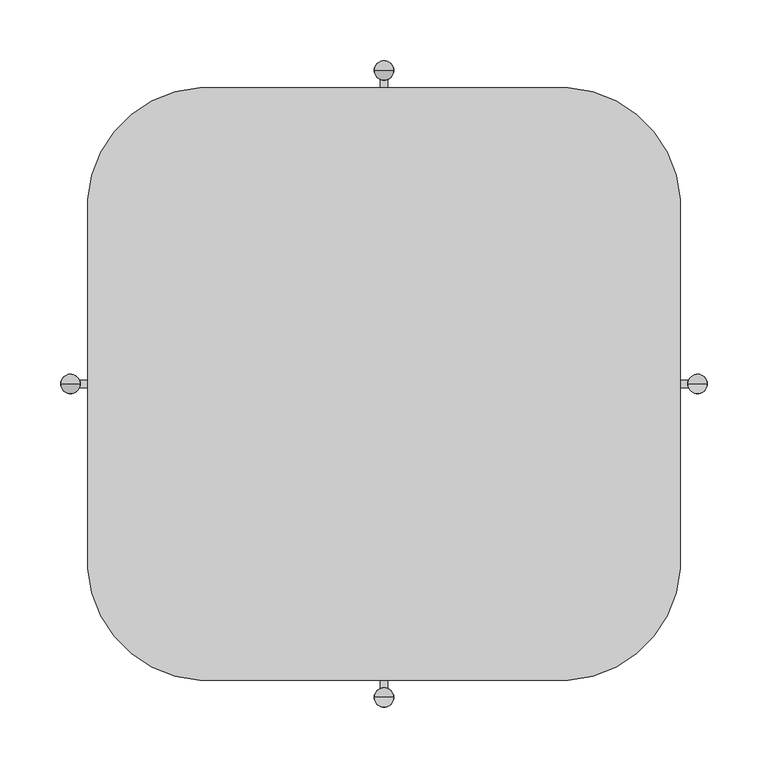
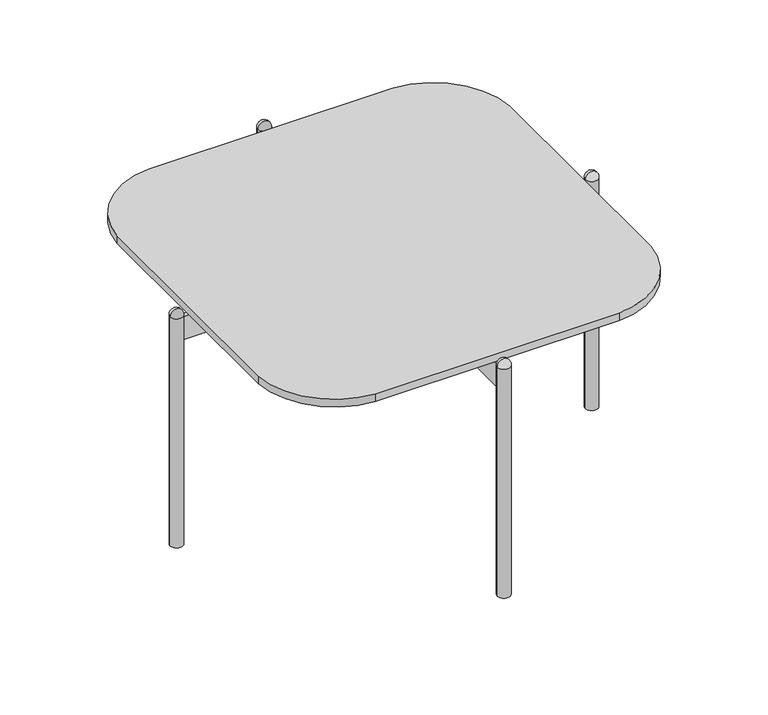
"""IFC4 building model written with IfcOpenShell, lengths in millimetres: furniture geometry, RECTANGULAR TABLE_H=31 : EI131B055050A_G."""

from ifc_helpers import new_model, si_unit, point, frame, frame_2d, origin, origin_with_axes, origin_2d, place, context, project, spatial, polyline, circle_curve, ellipse_curve, trimmed, segment, composite_curve, outline, extrude, source, transform, mapped, element, save
from ifc_brep_helpers import plane_surface, revolved_surface, advanced_brep


def furniture_b69855c9(model_context):
    return source(origin(), model_context, "Body", "SolidModel", [
        extrude(outline(composite_curve([segment(trimmed(circle_curve(frame_2d((-145.119559, 145.119559)), 99.0), [point((-243.8958721, 151.7708721))], [point((-151.7708721, 243.8958722))], False, "CARTESIAN"), True, "CONTINUOUS"), segment(trimmed(circle_curve(frame_2d((0.0, -2010.0000004)), 2259.0000004), [point((-151.7708721, 243.8958722))], [point((151.7708721, 243.8958722))], False, "CARTESIAN"), True, "CONTINUOUS"), segment(trimmed(circle_curve(frame_2d((145.119559, 145.119559)), 99.0000001), [point((151.7708721, 243.8958722))], [point((243.8958722, 151.7708721))], False, "CARTESIAN"), True, "CONTINUOUS"), segment(trimmed(circle_curve(frame_2d((-2010.0000004, 0.0)), 2259.0000004), [point((243.8958722, 151.7708721))], [point((243.8958722, -151.7708721))], False, "CARTESIAN"), True, "CONTINUOUS"), segment(trimmed(circle_curve(frame_2d((145.119559, -145.1195589)), 99.0), [point((243.8958722, -151.7708721))], [point((151.7708721, -243.8958721))], False, "CARTESIAN"), True, "CONTINUOUS"), segment(trimmed(circle_curve(frame_2d((0.0, 2010.0000004)), 2259.0000004), [point((151.7708721, -243.8958721))], [point((-151.7708721, -243.8958721))], False, "CARTESIAN"), True, "CONTINUOUS"), segment(trimmed(circle_curve(frame_2d((-145.1195589, -145.1195589)), 99.0), [point((-151.7708721, -243.8958721))], [point((-243.8958721, -151.7708721))], False, "CARTESIAN"), True, "CONTINUOUS"), segment(trimmed(circle_curve(frame_2d((2010.0000004, 0.0)), 2259.0000004), [point((-243.8958721, -151.7708721))], [point((-243.8958721, 151.7708721))], False, "CARTESIAN"), True, "CONTINUOUS")], self_intersect=False)), frame((0.0, 0.0, 297.6939464), z_axis=(0.0, 0.0, 1.0), x_axis=(1.0, 0.0, 0.0)), (0.0, 0.0, 1.0), 10.0),
        advanced_brep(
        [(-8.0, -257.95, 301.1666667), (8.0, -257.95, 301.1666667), (0.0, -257.95, 309.1666667), (0.0, -257.95, 301.1666667)],
        [
            (0, 1, circle_curve(frame((0.0, -257.95, 301.1666667), z_axis=(0.0, 0.0, 1.0), x_axis=(1.0, 0.0, 0.0)), 8.0)),
            (1, 2, circle_curve(frame((0.0, -257.95, 301.1666667), z_axis=(0.0, -1.0, 0.0), x_axis=(1.0, 0.0, 0.0)), 8.0)),
            (2, 0, circle_curve(frame((0.0, -257.95, 301.1666667), z_axis=(0.0, -1.0, 0.0), x_axis=(-1.0, 0.0, 0.0)), 8.0)),
            (1, 0, circle_curve(frame((0.0, -257.95, 301.1666667), z_axis=(0.0, 0.0, 1.0), x_axis=(1.0, 0.0, 0.0)), 8.0)),
            (3, 1),
            (0, 3),
        ],
        [
            revolved_surface(trimmed(ellipse_curve(frame((0.0, -257.95, 301.1666667), z_axis=(0.0, 1.0, 0.0), x_axis=(1.0, 0.0, 0.0)), 8.0, 8.0), [point((0.0, -257.95, 309.1666667))], [point((8.0, -257.95, 301.1666667))], True, "CARTESIAN"), (0.0, -257.95, 2498.4), (0.0, 0.0, -1.0)),
            plane_surface(frame((0.0, -257.95, 301.1666667), z_axis=(0.0, 0.0, -1.0), x_axis=(1.0, 0.0, 0.0))),
        ],
        [
            (0, [[1, 2, 3]]),
            (0, [[4, -3, -2]]),
            (1, [[5, -1, 6]]),
            (1, [[-6, -4, -5]]),
        ],
    ),
        advanced_brep(
        [(265.95, 0.0, 301.1666667), (249.95, 0.0, 301.1666667), (257.95, 0.0, 309.1666667), (257.95, 0.0, 301.1666667)],
        [
            (0, 1, circle_curve(frame((257.95, 0.0, 301.1666667), z_axis=(0.0, 0.0, 1.0), x_axis=(-1.0, 0.0, 0.0)), 8.0)),
            (1, 2, circle_curve(frame((257.95, 0.0, 301.1666667), z_axis=(0.0, 1.0, 0.0), x_axis=(-1.0, 0.0, 0.0)), 8.0)),
            (2, 0, circle_curve(frame((257.95, 0.0, 301.1666667), z_axis=(0.0, 1.0, 0.0), x_axis=(1.0, 0.0, 0.0)), 8.0)),
            (1, 0, circle_curve(frame((257.95, 0.0, 301.1666667), z_axis=(0.0, 0.0, 1.0), x_axis=(-1.0, 0.0, 0.0)), 8.0)),
            (3, 1),
            (0, 3),
        ],
        [
            revolved_surface(trimmed(ellipse_curve(frame((257.95, 0.0, 301.1666667), z_axis=(0.0, -1.0, 0.0), x_axis=(-1.0, 0.0, 0.0)), 8.0, 8.0), [point((257.95, 0.0, 309.1666667))], [point((249.95, 0.0, 301.1666667))], True, "CARTESIAN"), (257.95, 0.0, 2498.4), (0.0, 0.0, -1.0)),
            plane_surface(frame((257.95, 0.0, 301.1666667), z_axis=(0.0, 0.0, -1.0), x_axis=(-1.0, 0.0, 0.0))),
        ],
        [
            (0, [[1, 2, 3]]),
            (0, [[4, -3, -2]]),
            (1, [[5, -1, 6]]),
            (1, [[-6, -4, -5]]),
        ],
    ),
        advanced_brep(
        [(0.0, 257.95, 309.1666667), (8.0, 257.95, 301.1666667), (-8.0, 257.95, 301.1666667), (0.0, 257.95, 301.1666667)],
        [
            (0, 1, circle_curve(frame((0.0, 257.95, 301.1666667), z_axis=(0.0, 1.0, 0.0), x_axis=(1.0, 0.0, 0.0)), 8.0)),
            (1, 2, circle_curve(frame((0.0, 257.95, 301.1666667), z_axis=(0.0, 0.0, 1.0), x_axis=(1.0, 0.0, 0.0)), 8.0)),
            (2, 0, circle_curve(frame((0.0, 257.95, 301.1666667), z_axis=(0.0, 1.0, 0.0), x_axis=(-1.0, 0.0, 0.0)), 8.0)),
            (2, 1, circle_curve(frame((0.0, 257.95, 301.1666667), z_axis=(0.0, 0.0, 1.0), x_axis=(1.0, 0.0, 0.0)), 8.0)),
            (1, 3),
            (3, 2),
        ],
        [
            revolved_surface(trimmed(ellipse_curve(frame((0.0, 257.95, 301.1666667), z_axis=(0.0, -1.0, 0.0), x_axis=(1.0, 0.0, 0.0)), 8.0, 8.0), [point((8.0, 257.95, 301.1666667))], [point((0.0, 257.95, 309.1666667))], True, "CARTESIAN"), (0.0, 257.95, 2498.4), (0.0, 0.0, 1.0)),
            plane_surface(frame((0.0, 257.95, 301.1666667), z_axis=(0.0, 0.0, -1.0), x_axis=(1.0, 0.0, 0.0))),
        ],
        [
            (0, [[1, 2, 3]]),
            (0, [[-3, 4, -1]]),
            (1, [[-2, 5, 6]]),
            (1, [[-4, -6, -5]]),
        ],
    ),
        advanced_brep(
        [(-257.95, 0.0, 309.1666667), (-249.95, 0.0, 301.1666667), (-265.95, 0.0, 301.1666667), (-257.95, 0.0, 301.1666667)],
        [
            (0, 1, circle_curve(frame((-257.95, 0.0, 301.1666667), z_axis=(0.0, 1.0, 0.0), x_axis=(1.0, 0.0, 0.0)), 8.0)),
            (1, 2, circle_curve(frame((-257.95, 0.0, 301.1666667), z_axis=(0.0, 0.0, 1.0), x_axis=(1.0, 0.0, 0.0)), 8.0)),
            (2, 0, circle_curve(frame((-257.95, 0.0, 301.1666667), z_axis=(0.0, 1.0, 0.0), x_axis=(-1.0, 0.0, 0.0)), 8.0)),
            (2, 1, circle_curve(frame((-257.95, 0.0, 301.1666667), z_axis=(0.0, 0.0, 1.0), x_axis=(1.0, 0.0, 0.0)), 8.0)),
            (1, 3),
            (3, 2),
        ],
        [
            revolved_surface(trimmed(ellipse_curve(frame((-257.95, 0.0, 301.1666667), z_axis=(0.0, -1.0, 0.0), x_axis=(1.0, 0.0, 0.0)), 8.0, 8.0), [point((-249.95, 0.0, 301.1666667))], [point((-257.95, 0.0, 309.1666667))], True, "CARTESIAN"), (-257.95, 0.0, 2498.4), (0.0, 0.0, 1.0)),
            plane_surface(frame((-257.95, 0.0, 301.1666667), z_axis=(0.0, 0.0, -1.0), x_axis=(1.0, 0.0, 0.0))),
        ],
        [
            (0, [[1, 2, 3]]),
            (0, [[-3, 4, -1]]),
            (1, [[-2, 5, 6]]),
            (1, [[-4, -6, -5]]),
        ],
    ),
        extrude(outline(composite_curve([segment(trimmed(circle_curve(origin_2d(), 23.0), [point((3.0, 22.8035085))], [point((-3.0, 22.8035085))], True, "CARTESIAN"), True, "CONTINUOUS"), segment(polyline([(-3.0, 22.8035085), (-3.0, 250.5338015)]), True, "CONTINUOUS"), segment(trimmed(circle_curve(frame_2d((0.0, 257.95)), 8.0), [point((-3.0, 250.5338015))], [point((3.0, 250.5338015))], True, "CARTESIAN"), True, "CONTINUOUS"), segment(polyline([(3.0, 250.5338015), (3.0, 22.8035085)]), True, "CONTINUOUS")], self_intersect=False)), frame((0.0, 0.0, 267.6939464), z_axis=(0.0, 0.0, 1.0), x_axis=(1.0, 0.0, 0.0)), (0.0, 0.0, 1.0), 30.0),
        extrude(outline(composite_curve([segment(trimmed(circle_curve(origin_2d(), 23.0), [point((-3.0, -22.8035085))], [point((3.0, -22.8035085))], True, "CARTESIAN"), True, "CONTINUOUS"), segment(polyline([(3.0, -22.8035085), (3.0, -250.5338015)]), True, "CONTINUOUS"), segment(trimmed(circle_curve(frame_2d((0.0, -257.95)), 8.0), [point((3.0, -250.5338015))], [point((-3.0, -250.5338015))], True, "CARTESIAN"), True, "CONTINUOUS"), segment(polyline([(-3.0, -250.5338015), (-3.0, -22.8035085)]), True, "CONTINUOUS")], self_intersect=False)), frame((0.0, 0.0, 267.6939464), z_axis=(0.0, 0.0, 1.0), x_axis=(1.0, 0.0, 0.0)), (0.0, 0.0, 1.0), 30.0),
        extrude(outline(composite_curve([segment(trimmed(circle_curve(origin_2d(), 23.0), [point((-22.8035085, 3.0))], [point((-22.8035085, -3.0))], True, "CARTESIAN"), True, "CONTINUOUS"), segment(polyline([(-22.8035085, -3.0), (-250.5338015, -3.0)]), True, "CONTINUOUS"), segment(trimmed(circle_curve(frame_2d((-257.95, 0.0)), 8.0), [point((-250.5338015, -3.0))], [point((-249.95, 0.0))], True, "CARTESIAN"), True, "CONTINUOUS"), segment(trimmed(circle_curve(frame_2d((-257.95, 0.0)), 8.0), [point((-249.95, 0.0))], [point((-250.5338015, 3.0))], True, "CARTESIAN"), True, "CONTINUOUS"), segment(polyline([(-250.5338015, 3.0), (-22.8035085, 3.0)]), True, "CONTINUOUS")], self_intersect=False)), frame((0.0, 0.0, 267.6939464), z_axis=(0.0, 0.0, 1.0), x_axis=(1.0, 0.0, 0.0)), (0.0, 0.0, 1.0), 30.0),
        extrude(outline(composite_curve([segment(trimmed(circle_curve(origin_2d(), 23.0), [point((22.8035085, -3.0))], [point((22.8035085, 3.0))], True, "CARTESIAN"), True, "CONTINUOUS"), segment(polyline([(22.8035085, 3.0), (250.5338015, 3.0)]), True, "CONTINUOUS"), segment(trimmed(circle_curve(frame_2d((257.95, 0.0)), 8.0), [point((250.5338015, 3.0))], [point((249.95, 0.0))], True, "CARTESIAN"), True, "CONTINUOUS"), segment(trimmed(circle_curve(frame_2d((257.95, 0.0)), 8.0), [point((249.95, 0.0))], [point((250.5338015, -3.0))], True, "CARTESIAN"), True, "CONTINUOUS"), segment(polyline([(250.5338015, -3.0), (22.8035085, -3.0)]), True, "CONTINUOUS")], self_intersect=False)), frame((0.0, 0.0, 267.6939464), z_axis=(0.0, 0.0, 1.0), x_axis=(1.0, 0.0, 0.0)), (0.0, 0.0, 1.0), 30.0),
        extrude(outline(composite_curve([segment(trimmed(circle_curve(origin_2d(), 23.0), [point((-23.0, 0.0))], [point((23.0, 0.0))], False, "CARTESIAN"), True, "CONTINUOUS"), segment(trimmed(circle_curve(origin_2d(), 23.0), [point((23.0, 0.0))], [point((-23.0, 0.0))], False, "CARTESIAN"), True, "CONTINUOUS")], self_intersect=False)), frame((0.0, 0.0, 267.6939464), z_axis=(0.0, 0.0, 1.0), x_axis=(1.0, 0.0, 0.0)), (0.0, 0.0, 1.0), 30.0),
        extrude(outline(composite_curve([segment(trimmed(circle_curve(frame_2d((0.0, 257.95)), 8.0), [point((-8.0, 257.95))], [point((8.0, 257.95))], False, "CARTESIAN"), True, "CONTINUOUS"), segment(trimmed(circle_curve(frame_2d((0.0, 257.95)), 8.0), [point((8.0, 257.95))], [point((-8.0, 257.95))], False, "CARTESIAN"), True, "CONTINUOUS")], self_intersect=False)), origin_with_axes(), (0.0, 0.0, 1.0), 301.1666667),
        extrude(outline(composite_curve([segment(trimmed(circle_curve(frame_2d((-257.95, 0.0)), 8.0), [point((-265.95, 0.0))], [point((-249.95, 0.0))], False, "CARTESIAN"), True, "CONTINUOUS"), segment(trimmed(circle_curve(frame_2d((-257.95, 0.0)), 8.0), [point((-249.95, 0.0))], [point((-265.95, 0.0))], False, "CARTESIAN"), True, "CONTINUOUS")], self_intersect=False)), origin_with_axes(), (0.0, 0.0, 1.0), 301.1666667),
        extrude(outline(composite_curve([segment(trimmed(circle_curve(frame_2d((0.0, -257.95)), 8.0), [point((-8.0, -257.95))], [point((8.0, -257.95))], False, "CARTESIAN"), True, "CONTINUOUS"), segment(trimmed(circle_curve(frame_2d((0.0, -257.95)), 8.0), [point((8.0, -257.95))], [point((-8.0, -257.95))], False, "CARTESIAN"), True, "CONTINUOUS")], self_intersect=False)), origin_with_axes(), (0.0, 0.0, 1.0), 301.1666667),
        extrude(outline(composite_curve([segment(trimmed(circle_curve(frame_2d((257.95, 0.0)), 8.0), [point((249.95, 0.0))], [point((265.95, 0.0))], False, "CARTESIAN"), True, "CONTINUOUS"), segment(trimmed(circle_curve(frame_2d((257.95, 0.0)), 8.0), [point((265.95, 0.0))], [point((249.95, 0.0))], False, "CARTESIAN"), True, "CONTINUOUS")], self_intersect=False)), origin_with_axes(), (0.0, 0.0, 1.0), 301.1666667),
    ])


if __name__ == "__main__":
    model = new_model("IFC4")
    model_context = context("Model", 3, world=origin())
    ifc_project = project(units=[si_unit("LENGTHUNIT", "METRE", prefix="MILLI")], contexts=[model_context])
    site = spatial("IfcSite", under=ifc_project)
    building = spatial("IfcBuilding", under=site)
    placement = place(None, origin())
    furniture_shape = furniture_b69855c9(model_context)
    element("IfcFurniture", 1, ObjectType="RECTANGULAR TABLE_H=31 : EI131B055050A_G", at=placement, inside=building, context=model_context, shape_type="MappedRepresentation", body=[
        mapped(furniture_shape, transform((0.0, 0.0, 0.0), x_axis=(1.0, 0.0, 0.0), y_axis=(0.0, 1.0, 0.0), z_axis=(0.0, 0.0, 1.0))),
    ])
    save(model, "model.ifc")
